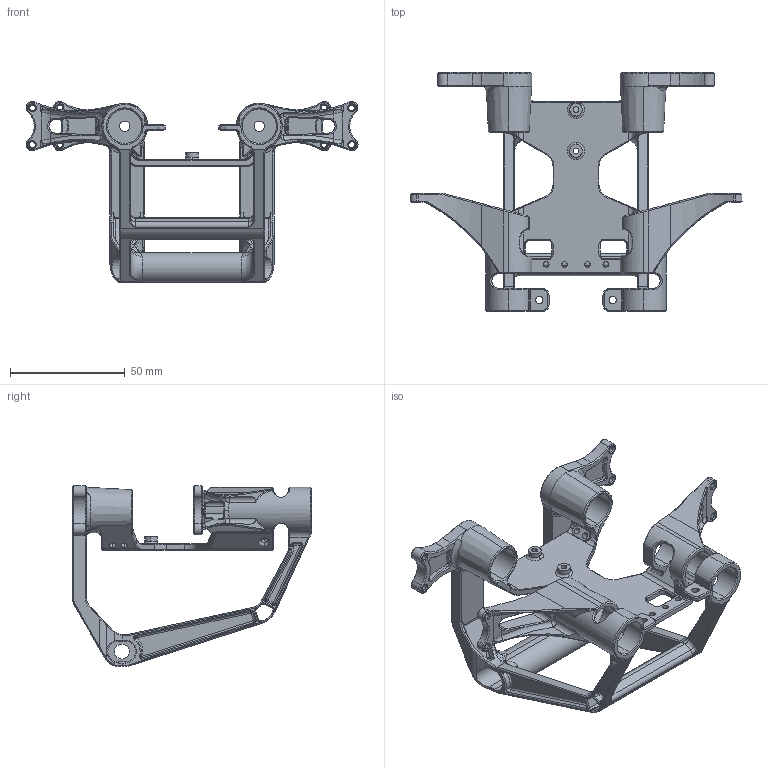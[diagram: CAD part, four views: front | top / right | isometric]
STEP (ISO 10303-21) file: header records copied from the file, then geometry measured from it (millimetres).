
FILE_DESCRIPTION (( 'STEP AP203' ), '1' );
FILE_NAME ('BR01_TORSO_RevB.STEP', '2023-06-17T07:30:19', ( '' ), ( '' ), '', '', '' );
FILE_SCHEMA (( 'CONFIG_CONTROL_DESIGN' ));
Length unit declared in the file: millimetre
Products named in the file (1): BR01_TORSO_RevB
Bounding box: 144.5 x 104 x 78.75 mm (x, y, z)
Volume: 50406.6 mm3; surface area: 49269.1 mm2
Topology: 1 solids, 1 shells, 1641 faces, 4027 edges, 2326 vertices
Faces by surface type: cylinder 417, plane 416, cone 390, bspline 336, sphere 42, torus 40
Entity records: 71584 total; most frequent: CARTESIAN_POINT 35978, ORIENTED_EDGE 7914, DIRECTION 6709, EDGE_CURVE 3957, AXIS2_PLACEMENT_3D 2561, VERTEX_POINT 2312, EDGE_LOOP 1719, ADVANCED_FACE 1641
